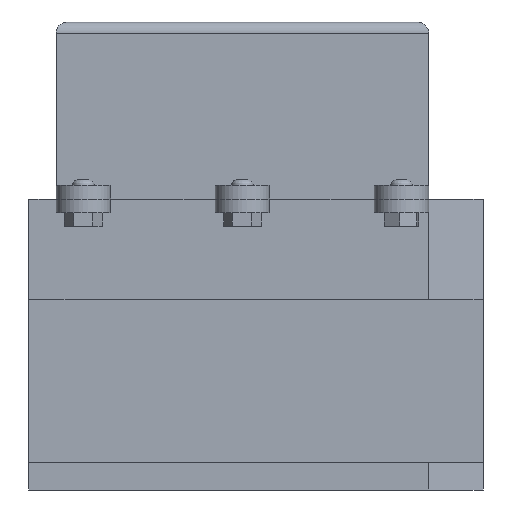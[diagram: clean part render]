
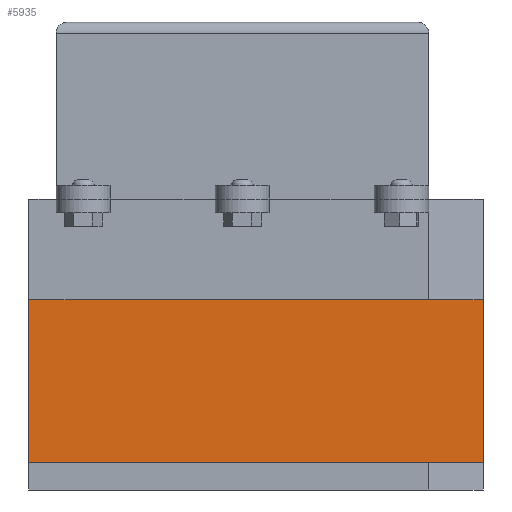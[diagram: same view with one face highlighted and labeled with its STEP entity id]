
A CAD part, front view. The second image highlights one B-rep face of the part: STEP entity #5935.
In plain terms, the highlighted planar face has unit normal (0, -1, 0).
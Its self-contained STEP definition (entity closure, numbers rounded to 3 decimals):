
#612=FACE_OUTER_BOUND('',#952,.T.);
#952=EDGE_LOOP('',(#5114,#5115,#5116,#5117));
#1460=LINE('',#9941,#2100);
#1499=LINE('',#10030,#2139);
#1515=LINE('',#10060,#2155);
#1554=LINE('',#10152,#2194);
#2100=VECTOR('',#7132,10.);
#2139=VECTOR('',#7193,10.);
#2155=VECTOR('',#7217,10.);
#2194=VECTOR('',#7324,10.);
#2709=VERTEX_POINT('',#9938);
#2710=VERTEX_POINT('',#9940);
#2749=VERTEX_POINT('',#10028);
#2759=VERTEX_POINT('',#10059);
#3480=EDGE_CURVE('',#2709,#2710,#1460,.T.);
#3525=EDGE_CURVE('',#2749,#2709,#1499,.T.);
#3541=EDGE_CURVE('',#2759,#2710,#1515,.T.);
#3586=EDGE_CURVE('',#2759,#2749,#1554,.T.);
#5114=ORIENTED_EDGE('',*,*,#3480,.F.);
#5115=ORIENTED_EDGE('',*,*,#3525,.F.);
#5116=ORIENTED_EDGE('',*,*,#3586,.F.);
#5117=ORIENTED_EDGE('',*,*,#3541,.T.);
#5592=PLANE('',#6248);
#5935=ADVANCED_FACE('',(#612),#5592,.F.);
#6248=AXIS2_PLACEMENT_3D('',#10151,#7322,#7323);
#7132=DIRECTION('',(0.,0.,-1.));
#7193=DIRECTION('',(1.,0.,0.));
#7217=DIRECTION('',(1.,0.,0.));
#7322=DIRECTION('center_axis',(0.,1.,0.));
#7323=DIRECTION('ref_axis',(0.,0.,1.));
#7324=DIRECTION('',(0.,0.,1.));
#9938=CARTESIAN_POINT('',(157.,30.,-37.));
#9940=CARTESIAN_POINT('',(157.,30.,-97.));
#9941=CARTESIAN_POINT('',(157.,30.,-48.5));
#10028=CARTESIAN_POINT('',(-10.,30.,-37.));
#10030=CARTESIAN_POINT('',(-10.,30.,-37.));
#10059=CARTESIAN_POINT('',(-10.,30.,-97.));
#10060=CARTESIAN_POINT('',(-10.,30.,-97.));
#10151=CARTESIAN_POINT('Origin',(-10.,30.,-97.));
#10152=CARTESIAN_POINT('',(-10.,30.,-48.5));
